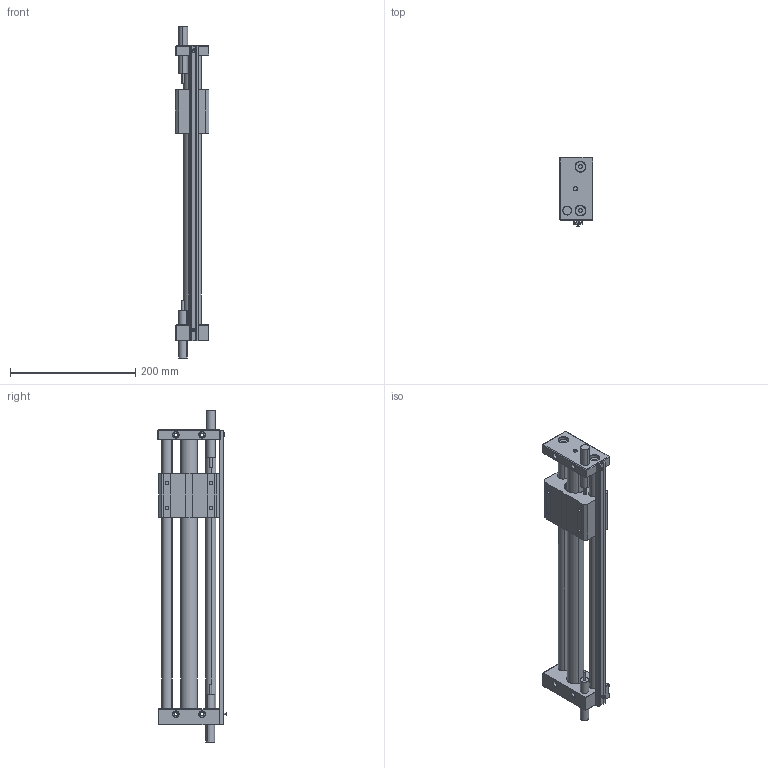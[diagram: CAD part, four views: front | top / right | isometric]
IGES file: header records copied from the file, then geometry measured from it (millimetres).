
Start section: SolidWorks IGES file using analytic representation for surfaces
Global section: file name: D:\Documents de SGA\Pieces 2D et 3D\GRU\iges\GRU 25.350.IGS; native system: SolidWorks 2010; preprocessor: SolidWorks 2010; author: SGA; date: 111216.111213; units: millimetre
Bounding box: 54 x 109.71 x 529.4 mm (x, y, z)
Surface area: 206139.1 mm2 (no closed solid volume)
Topology: 0 solids, 0 shells, 294 faces, 4396 edges, 4396 vertices
Faces by surface type: revolution 158, bspline 136
